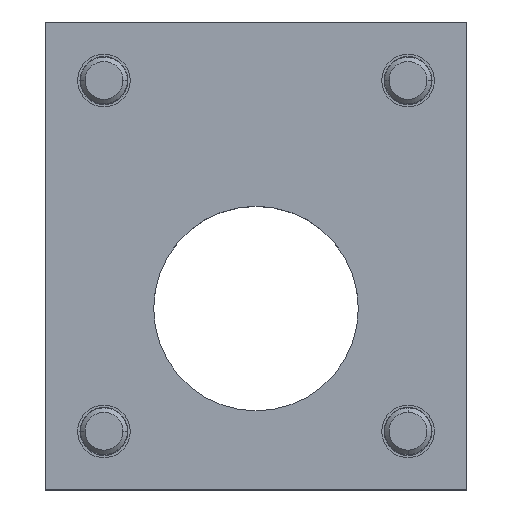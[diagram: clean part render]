
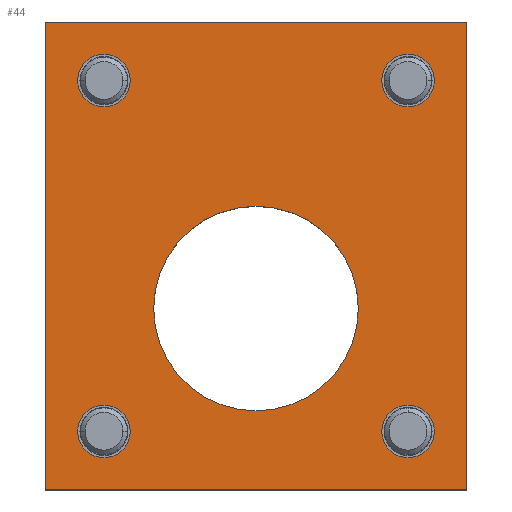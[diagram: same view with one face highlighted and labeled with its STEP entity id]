
A CAD part, top view. The second image highlights one B-rep face of the part: STEP entity #44.
In plain terms, the highlighted planar face has unit normal (0, 0, 1).
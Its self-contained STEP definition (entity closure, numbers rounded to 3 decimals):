
#13 = EDGE_LOOP ( 'NONE', ( #4055, #3089 ) ) ;
#24 = EDGE_CURVE ( 'NONE', #4068, #2294, #993, .T. ) ;
#44 = ADVANCED_FACE ( 'NONE', ( #1726, #3307, #2032, #88, #759, #1074 ), #1366, .T. ) ;
#48 = DIRECTION ( 'NONE',  ( 1., 0., 0. ) ) ;
#68 = DIRECTION ( 'NONE',  ( 0., 0., -1. ) ) ;
#88 = FACE_BOUND ( 'NONE', #2979, .T. ) ;
#113 = CARTESIAN_POINT ( 'NONE',  ( 36., 49., -32. ) ) ;
#130 = DIRECTION ( 'NONE',  ( 0., 0., 1. ) ) ;
#181 = AXIS2_PLACEMENT_3D ( 'NONE', #2531, #569, #1845 ) ;
#193 = VERTEX_POINT ( 'NONE', #2991 ) ;
#237 = CARTESIAN_POINT ( 'NONE',  ( 0., -17.5, -32. ) ) ;
#249 = CARTESIAN_POINT ( 'NONE',  ( 36., -31., -32. ) ) ;
#302 = CARTESIAN_POINT ( 'NONE',  ( 0., 0., -32. ) ) ;
#481 = CARTESIAN_POINT ( 'NONE',  ( -36., 49., -32. ) ) ;
#560 = DIRECTION ( 'NONE',  ( 0., 1., 0. ) ) ;
#569 = DIRECTION ( 'NONE',  ( 0., 0., -1. ) ) ;
#572 = EDGE_CURVE ( 'NONE', #2211, #845, #3730, .T. ) ;
#665 = DIRECTION ( 'NONE',  ( 0., 0., -1. ) ) ;
#690 = CARTESIAN_POINT ( 'NONE',  ( -26., 43.5, -32. ) ) ;
#759 = FACE_BOUND ( 'NONE', #2002, .T. ) ;
#778 = EDGE_CURVE ( 'NONE', #2654, #3483, #3061, .T. ) ;
#802 = EDGE_CURVE ( 'NONE', #2294, #923, #2926, .T. ) ;
#822 = CARTESIAN_POINT ( 'NONE',  ( 36., 49., -32. ) ) ;
#845 = VERTEX_POINT ( 'NONE', #237 ) ;
#879 = CIRCLE ( 'NONE', #3970, 4.5 ) ;
#923 = VERTEX_POINT ( 'NONE', #822 ) ;
#967 = DIRECTION ( 'NONE',  ( 0., 0., -1. ) ) ;
#968 = ORIENTED_EDGE ( 'NONE', *, *, #3453, .T. ) ;
#993 = LINE ( 'NONE', #3247, #3531 ) ;
#1002 = EDGE_LOOP ( 'NONE', ( #1458, #1400 ) ) ;
#1024 = DIRECTION ( 'NONE',  ( 0., 1., 0. ) ) ;
#1035 = EDGE_CURVE ( 'NONE', #1906, #1586, #2047, .T. ) ;
#1051 = EDGE_CURVE ( 'NONE', #2496, #3696, #4138, .T. ) ;
#1074 = FACE_OUTER_BOUND ( 'NONE', #3701, .T. ) ;
#1091 = EDGE_LOOP ( 'NONE', ( #2519, #3260 ) ) ;
#1136 = CIRCLE ( 'NONE', #1202, 4.5 ) ;
#1141 = DIRECTION ( 'NONE',  ( 0., 0., -1. ) ) ;
#1202 = AXIS2_PLACEMENT_3D ( 'NONE', #2865, #1590, #560 ) ;
#1270 = DIRECTION ( 'NONE',  ( 0., 1., 0. ) ) ;
#1291 = DIRECTION ( 'NONE',  ( 0., 0., -1. ) ) ;
#1320 = DIRECTION ( 'NONE',  ( 0., 0., -1. ) ) ;
#1329 = DIRECTION ( 'NONE',  ( 0., 1., 0. ) ) ;
#1335 = DIRECTION ( 'NONE',  ( 0., 0., -1. ) ) ;
#1366 = PLANE ( 'NONE',  #3662 ) ;
#1378 = EDGE_CURVE ( 'NONE', #3483, #2654, #2128, .T. ) ;
#1400 = ORIENTED_EDGE ( 'NONE', *, *, #3926, .T. ) ;
#1458 = ORIENTED_EDGE ( 'NONE', *, *, #1051, .T. ) ;
#1565 = DIRECTION ( 'NONE',  ( 0., 0., -1. ) ) ;
#1586 = VERTEX_POINT ( 'NONE', #3084 ) ;
#1590 = DIRECTION ( 'NONE',  ( 0., 0., -1. ) ) ;
#1622 = VERTEX_POINT ( 'NONE', #1897 ) ;
#1666 = EDGE_CURVE ( 'NONE', #193, #1622, #1136, .T. ) ;
#1667 = EDGE_CURVE ( 'NONE', #923, #1825, #1879, .T. ) ;
#1726 = FACE_BOUND ( 'NONE', #13, .T. ) ;
#1745 = DIRECTION ( 'NONE',  ( 0., 1., 0. ) ) ;
#1815 = ORIENTED_EDGE ( 'NONE', *, *, #1666, .T. ) ;
#1817 = EDGE_CURVE ( 'NONE', #1586, #1906, #2665, .T. ) ;
#1825 = VERTEX_POINT ( 'NONE', #3273 ) ;
#1845 = DIRECTION ( 'NONE',  ( 0., 1., 0. ) ) ;
#1848 = LINE ( 'NONE', #3745, #3841 ) ;
#1879 = LINE ( 'NONE', #249, #4090 ) ;
#1887 = CARTESIAN_POINT ( 'NONE',  ( 26., -21., -32. ) ) ;
#1897 = CARTESIAN_POINT ( 'NONE',  ( -26., -16.5, -32. ) ) ;
#1906 = VERTEX_POINT ( 'NONE', #3093 ) ;
#1942 = EDGE_CURVE ( 'NONE', #1825, #4068, #1848, .T. ) ;
#1954 = ORIENTED_EDGE ( 'NONE', *, *, #24, .F. ) ;
#1955 = CARTESIAN_POINT ( 'NONE',  ( 26., 39., -32. ) ) ;
#1962 = CARTESIAN_POINT ( 'NONE',  ( -26., 34.5, -32. ) ) ;
#1978 = DIRECTION ( 'NONE',  ( 0., 1., 0. ) ) ;
#1982 = AXIS2_PLACEMENT_3D ( 'NONE', #2364, #1141, #1745 ) ;
#2002 = EDGE_LOOP ( 'NONE', ( #2682, #4019 ) ) ;
#2032 = FACE_BOUND ( 'NONE', #1002, .T. ) ;
#2035 = AXIS2_PLACEMENT_3D ( 'NONE', #3866, #1565, #2254 ) ;
#2047 = CIRCLE ( 'NONE', #181, 4.5 ) ;
#2052 = CARTESIAN_POINT ( 'NONE',  ( 0., 17.5, -32. ) ) ;
#2128 = CIRCLE ( 'NONE', #2733, 4.5 ) ;
#2211 = VERTEX_POINT ( 'NONE', #2052 ) ;
#2254 = DIRECTION ( 'NONE',  ( 0., 1., 0. ) ) ;
#2294 = VERTEX_POINT ( 'NONE', #481 ) ;
#2336 = CARTESIAN_POINT ( 'NONE',  ( -26., -21., -32. ) ) ;
#2364 = CARTESIAN_POINT ( 'NONE',  ( 26., -21., -32. ) ) ;
#2370 = CARTESIAN_POINT ( 'NONE',  ( -26., 39., -32. ) ) ;
#2375 = ORIENTED_EDGE ( 'NONE', *, *, #802, .F. ) ;
#2440 = ORIENTED_EDGE ( 'NONE', *, *, #1942, .F. ) ;
#2486 = DIRECTION ( 'NONE',  ( 0., 1., 0. ) ) ;
#2496 = VERTEX_POINT ( 'NONE', #2829 ) ;
#2519 = ORIENTED_EDGE ( 'NONE', *, *, #778, .T. ) ;
#2531 = CARTESIAN_POINT ( 'NONE',  ( 26., 39., -32. ) ) ;
#2595 = AXIS2_PLACEMENT_3D ( 'NONE', #1955, #665, #3608 ) ;
#2638 = CARTESIAN_POINT ( 'NONE',  ( 0., 9., -32. ) ) ;
#2654 = VERTEX_POINT ( 'NONE', #690 ) ;
#2665 = CIRCLE ( 'NONE', #2595, 4.5 ) ;
#2682 = ORIENTED_EDGE ( 'NONE', *, *, #1035, .T. ) ;
#2687 = DIRECTION ( 'NONE',  ( -1., 0., 0. ) ) ;
#2733 = AXIS2_PLACEMENT_3D ( 'NONE', #2370, #1335, #1978 ) ;
#2810 = CARTESIAN_POINT ( 'NONE',  ( -36., -31., -32. ) ) ;
#2829 = CARTESIAN_POINT ( 'NONE',  ( 26., -16.5, -32. ) ) ;
#2865 = CARTESIAN_POINT ( 'NONE',  ( -26., -21., -32. ) ) ;
#2926 = LINE ( 'NONE', #113, #3733 ) ;
#2974 = EDGE_CURVE ( 'NONE', #845, #2211, #3323, .T. ) ;
#2979 = EDGE_LOOP ( 'NONE', ( #968, #1815 ) ) ;
#2991 = CARTESIAN_POINT ( 'NONE',  ( -26., -25.5, -32. ) ) ;
#3061 = CIRCLE ( 'NONE', #3202, 4.5 ) ;
#3084 = CARTESIAN_POINT ( 'NONE',  ( 26., 34.5, -32. ) ) ;
#3089 = ORIENTED_EDGE ( 'NONE', *, *, #2974, .T. ) ;
#3093 = CARTESIAN_POINT ( 'NONE',  ( 26., 43.5, -32. ) ) ;
#3160 = CARTESIAN_POINT ( 'NONE',  ( 26., -25.5, -32. ) ) ;
#3202 = AXIS2_PLACEMENT_3D ( 'NONE', #3249, #68, #3622 ) ;
#3247 = CARTESIAN_POINT ( 'NONE',  ( -36., 49., -32. ) ) ;
#3249 = CARTESIAN_POINT ( 'NONE',  ( -26., 39., -32. ) ) ;
#3260 = ORIENTED_EDGE ( 'NONE', *, *, #1378, .T. ) ;
#3265 = AXIS2_PLACEMENT_3D ( 'NONE', #302, #1291, #1270 ) ;
#3273 = CARTESIAN_POINT ( 'NONE',  ( 36., -31., -32. ) ) ;
#3307 = FACE_BOUND ( 'NONE', #1091, .T. ) ;
#3323 = CIRCLE ( 'NONE', #2035, 17.5 ) ;
#3453 = EDGE_CURVE ( 'NONE', #1622, #193, #879, .T. ) ;
#3483 = VERTEX_POINT ( 'NONE', #1962 ) ;
#3531 = VECTOR ( 'NONE', #1329, 1000. ) ;
#3608 = DIRECTION ( 'NONE',  ( 0., 1., 0. ) ) ;
#3622 = DIRECTION ( 'NONE',  ( 0., 1., 0. ) ) ;
#3662 = AXIS2_PLACEMENT_3D ( 'NONE', #2638, #130, #3935 ) ;
#3696 = VERTEX_POINT ( 'NONE', #3160 ) ;
#3701 = EDGE_LOOP ( 'NONE', ( #2375, #1954, #2440, #3714 ) ) ;
#3714 = ORIENTED_EDGE ( 'NONE', *, *, #1667, .F. ) ;
#3730 = CIRCLE ( 'NONE', #3265, 17.5 ) ;
#3733 = VECTOR ( 'NONE', #48, 1000. ) ;
#3745 = CARTESIAN_POINT ( 'NONE',  ( -36., -31., -32. ) ) ;
#3777 = DIRECTION ( 'NONE',  ( 0., -1., 0. ) ) ;
#3807 = AXIS2_PLACEMENT_3D ( 'NONE', #1887, #967, #2486 ) ;
#3841 = VECTOR ( 'NONE', #2687, 1000. ) ;
#3866 = CARTESIAN_POINT ( 'NONE',  ( 0., 0., -32. ) ) ;
#3926 = EDGE_CURVE ( 'NONE', #3696, #2496, #3940, .T. ) ;
#3935 = DIRECTION ( 'NONE',  ( 0., -1., 0. ) ) ;
#3940 = CIRCLE ( 'NONE', #1982, 4.5 ) ;
#3970 = AXIS2_PLACEMENT_3D ( 'NONE', #2336, #1320, #1024 ) ;
#4019 = ORIENTED_EDGE ( 'NONE', *, *, #1817, .T. ) ;
#4055 = ORIENTED_EDGE ( 'NONE', *, *, #572, .T. ) ;
#4068 = VERTEX_POINT ( 'NONE', #2810 ) ;
#4090 = VECTOR ( 'NONE', #3777, 1000. ) ;
#4138 = CIRCLE ( 'NONE', #3807, 4.5 ) ;
